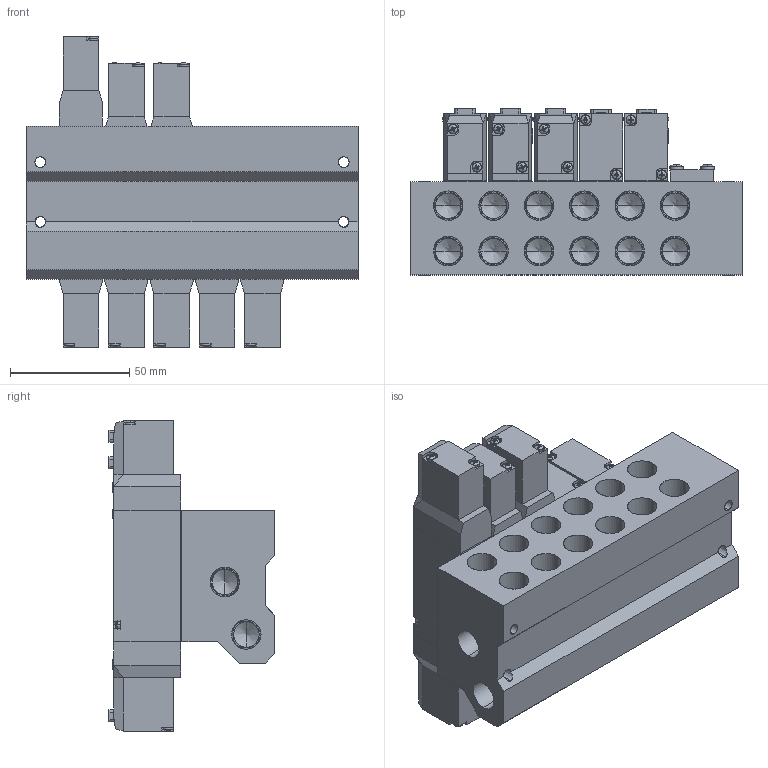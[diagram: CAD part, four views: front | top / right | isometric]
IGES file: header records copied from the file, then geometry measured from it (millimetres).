
Start section: SolidWorks IGES file using analytic representation for surfaces
Global section: file name: D:\Custom\3D繪製\PC\PC13\MFS#-PS13-02-L.IGS,1; native system: 5HSolidWorks 2014; preprocessor: SolidWorks 2014; author: Chieh_Lu; date: 150915.183032; units: millimetre
Bounding box: 139 x 69.5 x 130.14 mm (x, y, z)
Surface area: 137493.6 mm2 (no closed solid volume)
Topology: 0 solids, 0 shells, 2640 faces, 24440 edges, 24342 vertices
Faces by surface type: bspline 1664, revolution 976
